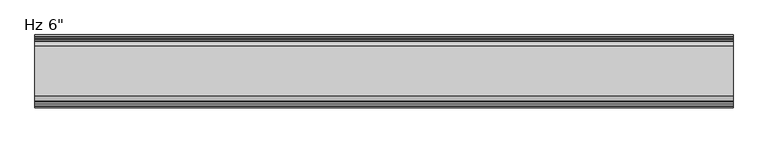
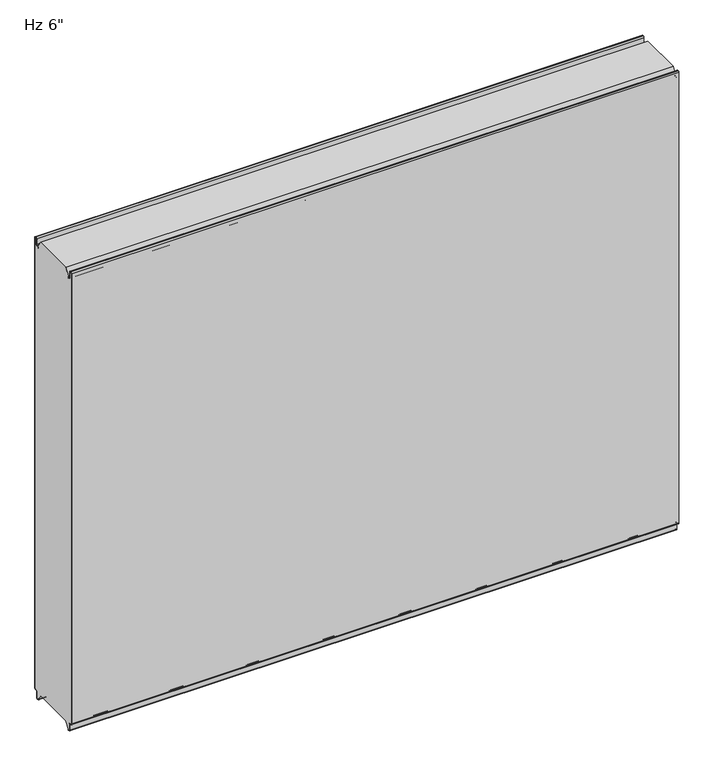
"""IFC4 building model written with IfcOpenShell, lengths in millimetres: plate geometry."""

from ifc_helpers import new_model, si_unit, frame, origin, place, context, project, spatial, polyline, circle_curve, source, transform, mapped, element, save
from ifc_brep_helpers import plane_surface, cylinder_surface, revolved_surface, advanced_brep


def plate_aa5ba04c(model_context):
    return source(origin(), model_context, "Body", "AdvancedBrep", [
        advanced_brep(
        [(-730.0, -149.4227194, 3.8499499), (-730.0, -151.3999935, 5.8272239), (-730.0, -151.4, 1150.8100652), (-730.0, -149.4227315, 1152.7873337), (-730.0, -148.3806329, 1152.7873337), (-730.0, -146.4033643, 1150.8100652), (-730.0, -146.4033643, 1136.6216802), (-730.0, -143.8154878, 1134.0338036), (-730.0, -139.4950697, 1134.0338036), (-730.0, -138.9060762, 1133.4253365), (-730.0, -138.9060762, 1131.0482432), (-730.0, -137.9066023, 1131.0482432), (-730.0, -137.9066023, 1136.4905123), (-730.0, -128.6490865, 1152.525), (-730.0, -23.7509179, 1152.525), (-730.0, -14.4933977, 1136.4905123), (-730.0, -14.4933977, 1131.0482432), (-730.0, -13.4939238, 1131.0482432), (-730.0, -13.4939238, 1133.4253365), (-730.0, -12.9049303, 1134.0338036), (-730.0, -8.5845122, 1134.0338036), (-730.0, -5.9966357, 1136.6216802), (-730.0, -5.9966357, 1150.8100652), (-730.0, -4.0193671, 1152.7873337), (-730.0, -2.9772685, 1152.7873337), (-730.0, -1.0, 1150.8100652), (-730.0, -1.0, 5.8272239), (-730.0, -2.9772806, 3.8499499), (-730.0, -5.2691705, 3.8499499), (-730.0, -9.2464377, -0.1273173), (-730.0, -9.2464377, -15.7237417), (-730.0, -9.8343146, -16.3116186), (-730.0, -12.9058635, -16.3116186), (-730.0, -13.4937402, -15.723742), (-730.0, -13.4937402, -13.3687064), (-730.0, -14.4937402, -13.3687064), (-730.0, -14.4937402, -15.6582851), (-730.0, -23.7509135, 0.0), (-730.0, -128.6490865, 0.0), (-730.0, -137.9062598, -15.6582851), (-730.0, -137.9062598, -13.3687064), (-730.0, -138.9062598, -13.3687064), (-730.0, -138.9062598, -15.723742), (-730.0, -139.4941365, -16.3116186), (-730.0, -142.5656854, -16.3116186), (-730.0, -143.1535623, -15.7237417), (-730.0, -143.1535623, -0.1273173), (-730.0, -147.1308295, 3.8499499), (730.0, -149.4227194, 3.8499499), (730.0, -147.1308295, 3.8499499), (730.0, -143.1535623, -0.1273173), (730.0, -143.1535623, -15.7237417), (730.0, -142.5656854, -16.3116186), (730.0, -139.4941365, -16.3116186), (730.0, -138.9062598, -15.723742), (730.0, -138.9062598, -13.3687064), (730.0, -137.9062598, -13.3687064), (730.0, -137.9062598, -15.6582851), (730.0, -128.6490865, 0.0), (730.0, -23.7509179, 0.0), (730.0, -14.4937402, -15.6582851), (730.0, -14.4937402, -13.3687064), (730.0, -13.4937402, -13.3687064), (730.0, -13.4937402, -15.723742), (730.0, -12.9058635, -16.3116186), (730.0, -9.8343146, -16.3116186), (730.0, -9.2464377, -15.7237417), (730.0, -9.2464377, -0.1273173), (730.0, -5.2691705, 3.8499499), (730.0, -2.9772806, 3.8499499), (730.0, -1.0000065, 5.8272239), (730.0, -1.0, 1150.8100652), (730.0, -2.9772685, 1152.7873337), (730.0, -4.0193671, 1152.7873337), (730.0, -5.9966357, 1150.8100652), (730.0, -5.9966357, 1136.6216802), (730.0, -8.5845122, 1134.0338036), (730.0, -12.9049303, 1134.0338036), (730.0, -13.4939238, 1133.4253365), (730.0, -13.4939238, 1131.0482432), (730.0, -14.4933977, 1131.0482432), (730.0, -14.4933977, 1136.4905123), (730.0, -23.7509135, 1152.525), (730.0, -128.6490865, 1152.525), (730.0, -137.9066023, 1136.4905123), (730.0, -137.9066023, 1131.0482432), (730.0, -138.9060762, 1131.0482432), (730.0, -138.9060762, 1133.4253365), (730.0, -139.4950697, 1134.0338036), (730.0, -143.8154878, 1134.0338036), (730.0, -146.4033643, 1136.6216802), (730.0, -146.4033643, 1150.8100652), (730.0, -148.3806329, 1152.7873337), (730.0, -149.4227315, 1152.7873337), (730.0, -151.4, 1150.8100652), (730.0, -151.4, 5.8272239)],
        [
            (0, 1, circle_curve(frame((-730.0, -149.4227194, 5.8272239), z_axis=(-1.0, 0.0, 0.0), x_axis=(0.0, 0.0, -1.0)), 1.977274)),
            (1, 2),
            (2, 3, circle_curve(frame((-730.0, -149.4227315, 1150.8100652), z_axis=(-1.0, 0.0, 0.0), x_axis=(0.0, 0.0, -1.0)), 1.9772685)),
            (3, 4),
            (4, 5, circle_curve(frame((-730.0, -148.3806329, 1150.8100652), z_axis=(-1.0, 0.0, 0.0), x_axis=(0.0, 0.0, -1.0)), 1.9772685)),
            (5, 6),
            (6, 7, circle_curve(frame((-730.0, -143.8154878, 1136.6216802), z_axis=(1.0, 0.0, 0.0), x_axis=(0.0, 0.0, -1.0)), 2.5878765)),
            (7, 8),
            (8, 9, circle_curve(frame((-730.0, -139.4950697, 1133.4444985), z_axis=(-1.0, 0.0, 0.0), x_axis=(0.0, 0.0, -1.0)), 0.5893051)),
            (9, 10),
            (10, 11),
            (11, 12),
            (12, 13),
            (13, 14),
            (14, 15),
            (15, 16),
            (16, 17),
            (17, 18),
            (18, 19, circle_curve(frame((-730.0, -12.9049303, 1133.4444985), z_axis=(-1.0, 0.0, 0.0), x_axis=(0.0, 1.0, 0.0)), 0.5893051)),
            (19, 20),
            (20, 21, circle_curve(frame((-730.0, -8.5845122, 1136.6216802), z_axis=(1.0, 0.0, 0.0), x_axis=(0.0, 1.0, 0.0)), 2.5878765)),
            (21, 22),
            (22, 23, circle_curve(frame((-730.0, -4.0193671, 1150.8100652), z_axis=(-1.0, 0.0, 0.0), x_axis=(0.0, 1.0, 0.0)), 1.9772685)),
            (23, 24),
            (24, 25, circle_curve(frame((-730.0, -2.9772685, 1150.8100652), z_axis=(-1.0, 0.0, 0.0), x_axis=(0.0, 1.0, 0.0)), 1.9772685)),
            (25, 26),
            (26, 27, circle_curve(frame((-730.0, -2.9772806, 5.8272239), z_axis=(-1.0, 0.0, 0.0), x_axis=(0.0, 1.0, 0.0)), 1.977274)),
            (27, 28),
            (28, 29, circle_curve(frame((-730.0, -5.2691705, -0.1273173), z_axis=(1.0, 0.0, 0.0), x_axis=(0.0, 1.0, 0.0)), 3.9772671)),
            (29, 30),
            (30, 31, circle_curve(frame((-730.0, -9.8343146, -15.7237417), z_axis=(-1.0, 0.0, 0.0), x_axis=(0.0, 1.0, 0.0)), 0.5878769)),
            (31, 32),
            (32, 33, circle_curve(frame((-730.0, -12.9058635, -15.723742), z_axis=(-1.0, 0.0, 0.0), x_axis=(0.0, 1.0, 0.0)), 0.5878766)),
            (33, 34),
            (34, 35),
            (35, 36),
            (36, 37),
            (37, 38),
            (38, 39),
            (39, 40),
            (40, 41),
            (41, 42),
            (42, 43, circle_curve(frame((-730.0, -139.4941365, -15.723742), z_axis=(-1.0, 0.0, 0.0), x_axis=(0.0, 0.0, -1.0)), 0.5878766)),
            (43, 44),
            (44, 45, circle_curve(frame((-730.0, -142.5656854, -15.7237417), z_axis=(-1.0, 0.0, 0.0), x_axis=(0.0, 0.0, -1.0)), 0.5878769)),
            (45, 46),
            (46, 47, circle_curve(frame((-730.0, -147.1308295, -0.1273173), z_axis=(1.0, 0.0, 0.0), x_axis=(0.0, 0.0, -1.0)), 3.9772671)),
            (47, 0),
            (48, 49),
            (49, 50, circle_curve(frame((730.0, -147.1308295, -0.1273173), z_axis=(-1.0, 0.0, 0.0), x_axis=(0.0, 0.0, -1.0)), 3.9772671)),
            (50, 51),
            (51, 52, circle_curve(frame((730.0, -142.5656854, -15.7237417), z_axis=(1.0, 0.0, 0.0), x_axis=(0.0, 0.0, -1.0)), 0.5878769)),
            (52, 53),
            (53, 54, circle_curve(frame((730.0, -139.4941365, -15.723742), z_axis=(1.0, 0.0, 0.0), x_axis=(0.0, 0.0, -1.0)), 0.5878766)),
            (54, 55),
            (55, 56),
            (56, 57),
            (57, 58),
            (58, 59),
            (59, 60),
            (60, 61),
            (61, 62),
            (62, 63),
            (63, 64, circle_curve(frame((730.0, -12.9058635, -15.723742), z_axis=(1.0, 0.0, 0.0), x_axis=(0.0, 1.0, 0.0)), 0.5878766)),
            (64, 65),
            (65, 66, circle_curve(frame((730.0, -9.8343146, -15.7237417), z_axis=(1.0, 0.0, 0.0), x_axis=(0.0, 1.0, 0.0)), 0.5878769)),
            (66, 67),
            (67, 68, circle_curve(frame((730.0, -5.2691705, -0.1273173), z_axis=(-1.0, 0.0, 0.0), x_axis=(0.0, 1.0, 0.0)), 3.9772671)),
            (68, 69),
            (69, 70, circle_curve(frame((730.0, -2.9772806, 5.8272239), z_axis=(1.0, 0.0, 0.0), x_axis=(0.0, 1.0, 0.0)), 1.977274)),
            (70, 71),
            (71, 72, circle_curve(frame((730.0, -2.9772685, 1150.8100652), z_axis=(1.0, 0.0, 0.0), x_axis=(0.0, 1.0, 0.0)), 1.9772685)),
            (72, 73),
            (73, 74, circle_curve(frame((730.0, -4.0193671, 1150.8100652), z_axis=(1.0, 0.0, 0.0), x_axis=(0.0, 1.0, 0.0)), 1.9772685)),
            (74, 75),
            (75, 76, circle_curve(frame((730.0, -8.5845122, 1136.6216802), z_axis=(-1.0, 0.0, 0.0), x_axis=(0.0, 1.0, 0.0)), 2.5878765)),
            (76, 77),
            (77, 78, circle_curve(frame((730.0, -12.9049303, 1133.4444985), z_axis=(1.0, 0.0, 0.0), x_axis=(0.0, 1.0, 0.0)), 0.5893051)),
            (78, 79),
            (79, 80),
            (80, 81),
            (81, 82),
            (82, 83),
            (83, 84),
            (84, 85),
            (85, 86),
            (86, 87),
            (87, 88, circle_curve(frame((730.0, -139.4950697, 1133.4444985), z_axis=(1.0, 0.0, 0.0), x_axis=(0.0, 0.0, -1.0)), 0.5893051)),
            (88, 89),
            (89, 90, circle_curve(frame((730.0, -143.8154878, 1136.6216802), z_axis=(-1.0, 0.0, 0.0), x_axis=(0.0, 0.0, -1.0)), 2.5878765)),
            (90, 91),
            (91, 92, circle_curve(frame((730.0, -148.3806329, 1150.8100652), z_axis=(1.0, 0.0, 0.0), x_axis=(0.0, 0.0, -1.0)), 1.9772685)),
            (92, 93),
            (93, 94, circle_curve(frame((730.0, -149.4227315, 1150.8100652), z_axis=(1.0, 0.0, 0.0), x_axis=(0.0, 0.0, -1.0)), 1.9772685)),
            (94, 95),
            (95, 48, circle_curve(frame((730.0, -149.4227194, 5.8272239), z_axis=(1.0, 0.0, 0.0), x_axis=(0.0, 0.0, -1.0)), 1.977274)),
            (13, 83),
            (82, 14),
            (58, 38),
            (37, 59),
            (47, 49),
            (48, 0),
            (46, 50),
            (45, 51),
            (44, 52),
            (43, 53),
            (42, 54),
            (41, 55),
            (40, 56),
            (39, 57),
            (12, 84),
            (11, 85),
            (10, 86),
            (9, 87),
            (8, 88),
            (7, 89),
            (6, 90),
            (5, 91),
            (4, 92),
            (3, 93),
            (2, 94),
            (1, 95),
            (26, 70),
            (69, 27),
            (25, 71),
            (24, 72),
            (23, 73),
            (22, 74),
            (21, 75),
            (20, 76),
            (19, 77),
            (18, 78),
            (17, 79),
            (16, 80),
            (15, 81),
            (36, 60),
            (35, 61),
            (34, 62),
            (33, 63),
            (32, 64),
            (31, 65),
            (30, 66),
            (29, 67),
            (28, 68),
        ],
        [
            plane_surface(frame((-730.0, -151.4, 576.2625), z_axis=(-1.0, 0.0, 0.0), x_axis=(0.0, -1.0, 0.0))),
            plane_surface(frame((730.0, -151.4, 576.2625), z_axis=(1.0, 0.0, 0.0), x_axis=(0.0, -1.0, 0.0))),
            plane_surface(frame((-730.0, -128.6490865, 1152.525), z_axis=(0.0, 0.0, 1.0), x_axis=(-1.0, 0.0, 0.0))),
            plane_surface(frame((-730.0, -128.6490865, 0.0), z_axis=(0.0, 0.0, -1.0), x_axis=(1.0, 0.0, 0.0))),
            plane_surface(frame((-730.0, -149.4227194, 3.8499499), z_axis=(0.0, 0.0, -1.0), x_axis=(1.0, 0.0, 0.0))),
            revolved_surface(polyline([(730.0, -147.1308295, -4.1045844), (-730.0, -147.1308295, -4.1045844)]), (-730.0, -147.1308295, -0.1273173), (1.0, 0.0, 0.0)),
            plane_surface(frame((-730.0, -143.1535623, -0.1273173), z_axis=(0.0, -1.0, 0.0), x_axis=(1.0, 0.0, 0.0))),
            cylinder_surface(frame((-730.0, -142.5656854, -15.7237417), z_axis=(-1.0, 0.0, 0.0), x_axis=(0.0, 0.0, -1.0)), 0.5878769),
            plane_surface(frame((-730.0, -142.5656854, -16.3116186), z_axis=(0.0, 0.0, -1.0), x_axis=(1.0, 0.0, 0.0))),
            cylinder_surface(frame((-730.0, -139.4941365, -15.723742), z_axis=(-1.0, 0.0, 0.0), x_axis=(0.0, 0.0, -1.0)), 0.5878766),
            plane_surface(frame((-730.0, -138.9062598, -15.723742), z_axis=(0.0, 1.0, 0.0), x_axis=(1.0, 0.0, 0.0))),
            plane_surface(frame((-730.0, -138.9062598, -13.3687064), z_axis=(0.0, 0.0, -1.0), x_axis=(1.0, 0.0, 0.0))),
            plane_surface(frame((-730.0, -137.9062598, -13.3687064), z_axis=(0.0, -1.0, 0.0), x_axis=(1.0, 0.0, 0.0))),
            plane_surface(frame((-730.0, -137.9062598, -15.6582851), z_axis=(0.0, 0.8608169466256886, -0.5089147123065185), x_axis=(1.0, 0.0, 0.0))),
            plane_surface(frame((-730.0, -128.6490865, 1152.525), z_axis=(0.0, -0.8660254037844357, 0.5000000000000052), x_axis=(1.0, 0.0, 0.0))),
            plane_surface(frame((-730.0, -137.9066023, 1136.4905123), z_axis=(0.0, -1.0, 0.0), x_axis=(1.0, 0.0, 0.0))),
            plane_surface(frame((-730.0, -137.9066023, 1131.0482432), z_axis=(0.0, 0.0, 1.0), x_axis=(1.0, 0.0, 0.0))),
            plane_surface(frame((-730.0, -138.9060762, 1131.0482432), z_axis=(0.0, 1.0, 0.0), x_axis=(1.0, 0.0, 0.0))),
            cylinder_surface(frame((-730.0, -139.4950697, 1133.4444985), z_axis=(-1.0, 0.0, 0.0), x_axis=(0.0, 0.0, -1.0)), 0.5893051),
            plane_surface(frame((-730.0, -139.4950697, 1134.0338036), z_axis=(0.0, 0.0, 1.0), x_axis=(1.0, 0.0, 0.0))),
            revolved_surface(polyline([(730.0, -143.8154878, 1134.0338037), (-730.0, -143.8154878, 1134.0338037)]), (-730.0, -143.8154878, 1136.6216802), (1.0, 0.0, 0.0)),
            plane_surface(frame((-730.0, -146.4033643, 1136.6216802), z_axis=(0.0, 1.0, 0.0), x_axis=(1.0, 0.0, 0.0))),
            cylinder_surface(frame((-730.0, -148.3806329, 1150.8100652), z_axis=(-1.0, 0.0, 0.0), x_axis=(0.0, 0.0, -1.0)), 1.9772685),
            plane_surface(frame((-730.0, -148.3806329, 1152.7873337), z_axis=(0.0, 0.0, 1.0), x_axis=(1.0, 0.0, 0.0))),
            cylinder_surface(frame((-730.0, -149.4227315, 1150.8100652), z_axis=(-1.0, 0.0, 0.0), x_axis=(0.0, 0.0, -1.0)), 1.9772685),
            plane_surface(frame((-730.0, -151.4, 1150.8100652), z_axis=(0.0, -1.0, 0.0), x_axis=(1.0, 0.0, 0.0))),
            cylinder_surface(frame((-730.0, -149.4227194, 5.8272239), z_axis=(-1.0, 0.0, 0.0), x_axis=(0.0, 0.0, -1.0)), 1.977274),
            cylinder_surface(frame((-730.0, -2.9772806, 5.8272239), z_axis=(-1.0, 0.0, 0.0), x_axis=(0.0, 1.0, 0.0)), 1.977274),
            plane_surface(frame((-730.0, -1.0, 5.8272239), z_axis=(0.0, 1.0, 0.0), x_axis=(1.0, 0.0, 0.0))),
            cylinder_surface(frame((-730.0, -2.9772685, 1150.8100652), z_axis=(-1.0, 0.0, 0.0), x_axis=(0.0, 1.0, 0.0)), 1.9772685),
            plane_surface(frame((-730.0, -2.9772685, 1152.7873337), z_axis=(0.0, 0.0, 1.0), x_axis=(1.0, 0.0, 0.0))),
            cylinder_surface(frame((-730.0, -4.0193671, 1150.8100652), z_axis=(-1.0, 0.0, 0.0), x_axis=(0.0, 1.0, 0.0)), 1.9772685),
            plane_surface(frame((-730.0, -5.9966357, 1150.8100652), z_axis=(0.0, -1.0, 0.0), x_axis=(1.0, 0.0, 0.0))),
            revolved_surface(polyline([(730.0, -5.996635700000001, 1136.6216802), (-730.0, -5.996635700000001, 1136.6216802)]), (-730.0, -8.5845122, 1136.6216802), (1.0, 0.0, 0.0)),
            plane_surface(frame((-730.0, -8.5845122, 1134.0338036), z_axis=(0.0, 0.0, 1.0), x_axis=(1.0, 0.0, 0.0))),
            cylinder_surface(frame((-730.0, -12.9049303, 1133.4444985), z_axis=(-1.0, 0.0, 0.0), x_axis=(0.0, 1.0, 0.0)), 0.5893051),
            plane_surface(frame((-730.0, -13.4939238, 1133.4253365), z_axis=(0.0, -1.0, 0.0), x_axis=(1.0, 0.0, 0.0))),
            plane_surface(frame((-730.0, -13.4939238, 1131.0482432), z_axis=(0.0, 0.0, 1.0), x_axis=(1.0, 0.0, 0.0))),
            plane_surface(frame((-730.0, -14.4933977, 1131.0482432), z_axis=(0.0, 1.0, 0.0), x_axis=(1.0, 0.0, 0.0))),
            plane_surface(frame((-730.0, -14.4933977, 1136.4905123), z_axis=(0.0, 0.8660254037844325, 0.5000000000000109), x_axis=(1.0, 0.0, 0.0))),
            plane_surface(frame((-730.0, -23.7509135, 0.0), z_axis=(0.0, -0.8608169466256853, -0.5089147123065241), x_axis=(1.0, 0.0, 0.0))),
            plane_surface(frame((-730.0, -14.4937402, -15.6582851), z_axis=(0.0, 1.0, 0.0), x_axis=(1.0, 0.0, 0.0))),
            plane_surface(frame((-730.0, -14.4937402, -13.3687064), z_axis=(0.0, 0.0, -1.0), x_axis=(1.0, 0.0, 0.0))),
            plane_surface(frame((-730.0, -13.4937402, -13.3687064), z_axis=(0.0, -1.0, 0.0), x_axis=(1.0, 0.0, 0.0))),
            cylinder_surface(frame((-730.0, -12.9058635, -15.723742), z_axis=(-1.0, 0.0, 0.0), x_axis=(0.0, 1.0, 0.0)), 0.5878766),
            plane_surface(frame((-730.0, -12.9058635, -16.3116186), z_axis=(0.0, 0.0, -1.0), x_axis=(1.0, 0.0, 0.0))),
            cylinder_surface(frame((-730.0, -9.8343146, -15.7237417), z_axis=(-1.0, 0.0, 0.0), x_axis=(0.0, 1.0, 0.0)), 0.5878769),
            plane_surface(frame((-730.0, -9.2464377, -15.7237417), z_axis=(0.0, 1.0, 0.0), x_axis=(1.0, 0.0, 0.0))),
            revolved_surface(polyline([(730.0, -1.2919034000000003, -0.1273173), (-730.0, -1.2919034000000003, -0.1273173)]), (-730.0, -5.2691705, -0.1273173), (1.0, 0.0, 0.0)),
            plane_surface(frame((-730.0, -5.2691705, 3.8499499), z_axis=(0.0, 0.0, -1.0), x_axis=(1.0, 0.0, 0.0))),
        ],
        [
            (0, [[1, 2, 3, 4, 5, 6, 7, 8, 9, 10, 11, 12, 13, 14, 15, 16, 17, 18, 19, 20, 21, 22, 23, 24, 25, 26, 27, 28, 29, 30, 31, 32, 33, 34, 35, 36, 37, 38, 39, 40, 41, 42, 43, 44, 45, 46, 47, 48]]),
            (1, [[49, 50, 51, 52, 53, 54, 55, 56, 57, 58, 59, 60, 61, 62, 63, 64, 65, 66, 67, 68, 69, 70, 71, 72, 73, 74, 75, 76, 77, 78, 79, 80, 81, 82, 83, 84, 85, 86, 87, 88, 89, 90, 91, 92, 93, 94, 95, 96]]),
            (2, [[97, -83, 98, -14]]),
            (3, [[99, -38, 100, -59]]),
            (4, [[101, -49, 102, -48]]),
            (5, [[103, -50, -101, -47]]),
            (6, [[104, -51, -103, -46]]),
            (7, [[105, -52, -104, -45]]),
            (8, [[106, -53, -105, -44]]),
            (9, [[107, -54, -106, -43]]),
            (10, [[108, -55, -107, -42]]),
            (11, [[109, -56, -108, -41]]),
            (12, [[110, -57, -109, -40]]),
            (13, [[-99, -58, -110, -39]]),
            (14, [[111, -84, -97, -13]]),
            (15, [[112, -85, -111, -12]]),
            (16, [[113, -86, -112, -11]]),
            (17, [[114, -87, -113, -10]]),
            (18, [[115, -88, -114, -9]]),
            (19, [[116, -89, -115, -8]]),
            (20, [[117, -90, -116, -7]]),
            (21, [[118, -91, -117, -6]]),
            (22, [[119, -92, -118, -5]]),
            (23, [[120, -93, -119, -4]]),
            (24, [[121, -94, -120, -3]]),
            (25, [[122, -95, -121, -2]]),
            (26, [[-102, -96, -122, -1]]),
            (27, [[123, -70, 124, -27]]),
            (28, [[125, -71, -123, -26]]),
            (29, [[126, -72, -125, -25]]),
            (30, [[127, -73, -126, -24]]),
            (31, [[128, -74, -127, -23]]),
            (32, [[129, -75, -128, -22]]),
            (33, [[130, -76, -129, -21]]),
            (34, [[131, -77, -130, -20]]),
            (35, [[132, -78, -131, -19]]),
            (36, [[133, -79, -132, -18]]),
            (37, [[134, -80, -133, -17]]),
            (38, [[135, -81, -134, -16]]),
            (39, [[-98, -82, -135, -15]]),
            (40, [[136, -60, -100, -37]]),
            (41, [[137, -61, -136, -36]]),
            (42, [[138, -62, -137, -35]]),
            (43, [[139, -63, -138, -34]]),
            (44, [[140, -64, -139, -33]]),
            (45, [[141, -65, -140, -32]]),
            (46, [[142, -66, -141, -31]]),
            (47, [[143, -67, -142, -30]]),
            (48, [[144, -68, -143, -29]]),
            (49, [[-124, -69, -144, -28]]),
        ],
    ),
        advanced_brep(
        [(-730.0, -2.9776189, 3.8501063), (-730.0, -1.0007088, 5.8270163), (-730.0, -1.0007088, 1150.812837), (-730.0, -2.97659, 1152.7887182), (-730.0, -4.019022, 1152.7887182), (-730.0, -5.9969834, 1150.8107568), (-730.0, -5.9969834, 1136.6215971), (-730.0, -8.5846834, 1134.0338971), (-730.0, -12.9049158, 1134.0338971), (-730.0, -13.4939528, 1133.4253599), (-730.0, -13.4939528, 1131.0482432), (-730.0, -14.4933977, 1131.0482432), (-730.0, -14.4933977, 1133.3929042), (-730.0, -12.9049303, 1135.0338036), (-730.0, -8.5845122, 1135.0338036), (-730.0, -6.9966356, 1136.6216801), (-730.0, -6.9966356, 1150.8100652), (-730.0, -4.0193671, 1153.7873337), (-730.0, -2.9772685, 1153.7873337), (-730.0, 0.0, 1150.8100652), (-730.0, 0.0, 5.8272211), (-730.0, -2.977286, 2.8499526), (-730.0, -5.2691698, 2.8499526), (-730.0, -8.2464384, -0.1273159), (-730.0, -8.2464384, -15.7237419), (-730.0, -9.8343149, -17.3116185), (-730.0, -12.9058636, -17.3116185), (-730.0, -14.4937401, -15.7237419), (-730.0, -14.4937401, -13.3687064), (-730.0, -13.4937365, -13.3687064), (-730.0, -13.4937365, -15.7237374), (-730.0, -12.9058654, -16.3116086), (-730.0, -9.834334, -16.3116086), (-730.0, -9.2464768, -15.7237514), (-730.0, -9.2464768, -0.1272391), (-730.0, -5.2691315, 3.8501063), (730.0, -2.9776189, 3.8501063), (730.0, -5.2691315, 3.8501063), (730.0, -9.2464768, -0.1272391), (730.0, -9.2464768, -15.7237514), (730.0, -9.834334, -16.3116086), (730.0, -12.9058654, -16.3116086), (730.0, -13.4937365, -15.7237374), (730.0, -13.4937365, -13.3687064), (730.0, -14.4937401, -13.3687064), (730.0, -14.4937401, -15.7237419), (730.0, -12.9058636, -17.3116185), (730.0, -9.8343149, -17.3116185), (730.0, -8.2464384, -15.7237419), (730.0, -8.2464384, -0.1273159), (730.0, -5.2691698, 2.8499526), (730.0, -2.977286, 2.8499526), (730.0, -1.75e-05, 5.8272211), (730.0, 0.0, 1150.8100652), (730.0, -2.9772685, 1153.7873337), (730.0, -4.0193671, 1153.7873337), (730.0, -6.9966356, 1150.8100652), (730.0, -6.9966356, 1136.6216801), (730.0, -8.5845122, 1135.0338036), (730.0, -12.9049303, 1135.0338036), (730.0, -14.4933977, 1133.3929042), (730.0, -14.4933977, 1131.0482432), (730.0, -13.4939528, 1131.0482432), (730.0, -13.4939528, 1133.4253599), (730.0, -12.9049158, 1134.0338971), (730.0, -8.5846834, 1134.0338971), (730.0, -5.9969834, 1136.6215971), (730.0, -5.9969834, 1150.8107568), (730.0, -4.019022, 1152.7887182), (730.0, -2.97659, 1152.7887182), (730.0, -1.0007088, 1150.812837), (730.0, -1.0007088, 5.8270163)],
        [
            (0, 1, circle_curve(frame((-730.0, -2.9776189, 5.8270163), z_axis=(1.0, 0.0, 0.0), x_axis=(0.0, 1.0, 0.0)), 1.9769101)),
            (1, 2),
            (2, 3, circle_curve(frame((-730.0, -2.97659, 1150.812837), z_axis=(1.0, 0.0, 0.0), x_axis=(0.0, 1.0, 0.0)), 1.9758812)),
            (3, 4),
            (4, 5, circle_curve(frame((-730.0, -4.019022, 1150.8107568), z_axis=(1.0, 0.0, 0.0), x_axis=(0.0, 1.0, 0.0)), 1.9779614)),
            (5, 6),
            (6, 7, circle_curve(frame((-730.0, -8.5846834, 1136.6215971), z_axis=(-1.0, 0.0, 0.0), x_axis=(0.0, 1.0, 0.0)), 2.5877)),
            (7, 8),
            (8, 9, circle_curve(frame((-730.0, -12.9049158, 1133.4445477), z_axis=(1.0, 0.0, 0.0), x_axis=(0.0, 1.0, 0.0)), 0.5893495)),
            (9, 10),
            (10, 11),
            (11, 12),
            (12, 13, circle_curve(frame((-730.0, -12.9049303, 1133.4444985), z_axis=(-1.0, 0.0, 0.0), x_axis=(0.0, 1.0, 0.0)), 1.5893051)),
            (13, 14),
            (14, 15, circle_curve(frame((-730.0, -8.5845122, 1136.6216801), z_axis=(1.0, 0.0, 0.0), x_axis=(0.0, 1.0, 0.0)), 1.5878765)),
            (15, 16),
            (16, 17, circle_curve(frame((-730.0, -4.0193671, 1150.8100652), z_axis=(-1.0, 0.0, 0.0), x_axis=(0.0, 1.0, 0.0)), 2.9772685)),
            (17, 18),
            (18, 19, circle_curve(frame((-730.0, -2.9772685, 1150.8100652), z_axis=(-1.0, 0.0, 0.0), x_axis=(0.0, 1.0, 0.0)), 2.9772685)),
            (19, 20),
            (20, 21, circle_curve(frame((-730.0, -2.977286, 5.8272211), z_axis=(-1.0, 0.0, 0.0), x_axis=(0.0, 1.0, 0.0)), 2.9772685)),
            (21, 22),
            (22, 23, circle_curve(frame((-730.0, -5.2691698, -0.1273159), z_axis=(1.0, 0.0, 0.0), x_axis=(0.0, 1.0, 0.0)), 2.9772685)),
            (23, 24),
            (24, 25, circle_curve(frame((-730.0, -9.8343149, -15.7237419), z_axis=(-1.0, 0.0, 0.0), x_axis=(0.0, 1.0, 0.0)), 1.5878765)),
            (25, 26),
            (26, 27, circle_curve(frame((-730.0, -12.9058636, -15.7237419), z_axis=(-1.0, 0.0, 0.0), x_axis=(0.0, 1.0, 0.0)), 1.5878765)),
            (27, 28),
            (28, 29),
            (29, 30),
            (30, 31, circle_curve(frame((-730.0, -12.9058654, -15.7237374), z_axis=(1.0, 0.0, 0.0), x_axis=(0.0, 1.0, 0.0)), 0.5878711)),
            (31, 32),
            (32, 33, circle_curve(frame((-730.0, -9.834334, -15.7237514), z_axis=(1.0, 0.0, 0.0), x_axis=(0.0, 1.0, 0.0)), 0.5878572)),
            (33, 34),
            (34, 35, circle_curve(frame((-730.0, -5.2691315, -0.1272391), z_axis=(-1.0, 0.0, 0.0), x_axis=(0.0, 1.0, 0.0)), 3.9773454)),
            (35, 0),
            (36, 37),
            (37, 38, circle_curve(frame((730.0, -5.2691315, -0.1272391), z_axis=(1.0, 0.0, 0.0), x_axis=(0.0, 1.0, 0.0)), 3.9773454)),
            (38, 39),
            (39, 40, circle_curve(frame((730.0, -9.834334, -15.7237514), z_axis=(-1.0, 0.0, 0.0), x_axis=(0.0, 1.0, 0.0)), 0.5878572)),
            (40, 41),
            (41, 42, circle_curve(frame((730.0, -12.9058654, -15.7237374), z_axis=(-1.0, 0.0, 0.0), x_axis=(0.0, 1.0, 0.0)), 0.5878711)),
            (42, 43),
            (43, 44),
            (44, 45),
            (45, 46, circle_curve(frame((730.0, -12.9058636, -15.7237419), z_axis=(1.0, 0.0, 0.0), x_axis=(0.0, 1.0, 0.0)), 1.5878765)),
            (46, 47),
            (47, 48, circle_curve(frame((730.0, -9.8343149, -15.7237419), z_axis=(1.0, 0.0, 0.0), x_axis=(0.0, 1.0, 0.0)), 1.5878765)),
            (48, 49),
            (49, 50, circle_curve(frame((730.0, -5.2691698, -0.1273159), z_axis=(-1.0, 0.0, 0.0), x_axis=(0.0, 1.0, 0.0)), 2.9772685)),
            (50, 51),
            (51, 52, circle_curve(frame((730.0, -2.977286, 5.8272211), z_axis=(1.0, 0.0, 0.0), x_axis=(0.0, 1.0, 0.0)), 2.9772685)),
            (52, 53),
            (53, 54, circle_curve(frame((730.0, -2.9772685, 1150.8100652), z_axis=(1.0, 0.0, 0.0), x_axis=(0.0, 1.0, 0.0)), 2.9772685)),
            (54, 55),
            (55, 56, circle_curve(frame((730.0, -4.0193671, 1150.8100652), z_axis=(1.0, 0.0, 0.0), x_axis=(0.0, 1.0, 0.0)), 2.9772685)),
            (56, 57),
            (57, 58, circle_curve(frame((730.0, -8.5845122, 1136.6216801), z_axis=(-1.0, 0.0, 0.0), x_axis=(0.0, 1.0, 0.0)), 1.5878765)),
            (58, 59),
            (59, 60, circle_curve(frame((730.0, -12.9049303, 1133.4444985), z_axis=(1.0, 0.0, 0.0), x_axis=(0.0, 1.0, 0.0)), 1.5893051)),
            (60, 61),
            (61, 62),
            (62, 63),
            (63, 64, circle_curve(frame((730.0, -12.9049158, 1133.4445477), z_axis=(-1.0, 0.0, 0.0), x_axis=(0.0, 1.0, 0.0)), 0.5893495)),
            (64, 65),
            (65, 66, circle_curve(frame((730.0, -8.5846834, 1136.6215971), z_axis=(1.0, 0.0, 0.0), x_axis=(0.0, 1.0, 0.0)), 2.5877)),
            (66, 67),
            (67, 68, circle_curve(frame((730.0, -4.019022, 1150.8107568), z_axis=(-1.0, 0.0, 0.0), x_axis=(0.0, 1.0, 0.0)), 1.9779614)),
            (68, 69),
            (69, 70, circle_curve(frame((730.0, -2.97659, 1150.812837), z_axis=(-1.0, 0.0, 0.0), x_axis=(0.0, 1.0, 0.0)), 1.9758812)),
            (70, 71),
            (71, 36, circle_curve(frame((730.0, -2.9776189, 5.8270163), z_axis=(-1.0, 0.0, 0.0), x_axis=(0.0, 1.0, 0.0)), 1.9769101)),
            (35, 37),
            (36, 0),
            (34, 38),
            (33, 39),
            (32, 40),
            (31, 41),
            (30, 42),
            (29, 43),
            (28, 44),
            (27, 45),
            (26, 46),
            (25, 47),
            (24, 48),
            (23, 49),
            (22, 50),
            (21, 51),
            (20, 52),
            (19, 53),
            (18, 54),
            (17, 55),
            (16, 56),
            (15, 57),
            (14, 58),
            (13, 59),
            (12, 60),
            (11, 61),
            (10, 62),
            (9, 63),
            (8, 64),
            (7, 65),
            (6, 66),
            (5, 67),
            (4, 68),
            (3, 69),
            (2, 70),
            (1, 71),
        ],
        [
            plane_surface(frame((-730.0, 0.0, 576.2625), z_axis=(-1.0, 0.0, 0.0), x_axis=(0.0, 1.0, 0.0))),
            plane_surface(frame((730.0, 0.0, 576.2625), z_axis=(1.0, 0.0, 0.0), x_axis=(0.0, 1.0, 0.0))),
            plane_surface(frame((-730.0, -2.9776189, 3.8501063), z_axis=(0.0, 0.0, 1.0), x_axis=(1.0, 0.0, 0.0))),
            cylinder_surface(frame((-730.0, -5.2691315, -0.1272391), z_axis=(-1.0, 0.0, 0.0), x_axis=(0.0, 1.0, 0.0)), 3.9773454),
            plane_surface(frame((-730.0, -9.2464768, -0.1272391), z_axis=(0.0, -1.0, 0.0), x_axis=(1.0, 0.0, 0.0))),
            revolved_surface(polyline([(730.0, -9.2464768, -15.7237514), (-730.0, -9.2464768, -15.7237514)]), (-730.0, -9.834334, -15.7237514), (1.0, 0.0, 0.0)),
            plane_surface(frame((-730.0, -9.834334, -16.3116086), z_axis=(0.0, 0.0, 1.0), x_axis=(1.0, 0.0, 0.0))),
            revolved_surface(polyline([(730.0, -12.3179943, -15.7237374), (-730.0, -12.3179943, -15.7237374)]), (-730.0, -12.9058654, -15.7237374), (1.0, 0.0, 0.0)),
            plane_surface(frame((-730.0, -13.4937365, -15.7237374), z_axis=(0.0, 1.0, 0.0), x_axis=(1.0, 0.0, 0.0))),
            plane_surface(frame((-730.0, -13.4937365, -13.3687064), z_axis=(0.0, 0.0, 1.0), x_axis=(1.0, 0.0, 0.0))),
            plane_surface(frame((-730.0, -14.4937401, -13.3687064), z_axis=(0.0, -1.0, 0.0), x_axis=(1.0, 0.0, 0.0))),
            cylinder_surface(frame((-730.0, -12.9058636, -15.7237419), z_axis=(-1.0, 0.0, 0.0), x_axis=(0.0, 1.0, 0.0)), 1.5878765),
            plane_surface(frame((-730.0, -12.9058636, -17.3116185), z_axis=(0.0, 0.0, -1.0), x_axis=(1.0, 0.0, 0.0))),
            cylinder_surface(frame((-730.0, -9.8343149, -15.7237419), z_axis=(-1.0, 0.0, 0.0), x_axis=(0.0, 1.0, 0.0)), 1.5878765),
            plane_surface(frame((-730.0, -8.2464384, -15.7237419), z_axis=(0.0, 1.0, 0.0), x_axis=(1.0, 0.0, 0.0))),
            revolved_surface(polyline([(730.0, -2.2919013, -0.1273159), (-730.0, -2.2919013, -0.1273159)]), (-730.0, -5.2691698, -0.1273159), (1.0, 0.0, 0.0)),
            plane_surface(frame((-730.0, -5.2691698, 2.8499526), z_axis=(0.0, 0.0, -1.0), x_axis=(1.0, 0.0, 0.0))),
            cylinder_surface(frame((-730.0, -2.977286, 5.8272211), z_axis=(-1.0, 0.0, 0.0), x_axis=(0.0, 1.0, 0.0)), 2.9772685),
            plane_surface(frame((-730.0, 0.0, 5.8272211), z_axis=(0.0, 1.0, 0.0), x_axis=(1.0, 0.0, 0.0))),
            cylinder_surface(frame((-730.0, -2.9772685, 1150.8100652), z_axis=(-1.0, 0.0, 0.0), x_axis=(0.0, 1.0, 0.0)), 2.9772685),
            plane_surface(frame((-730.0, -2.9772685, 1153.7873337), z_axis=(0.0, 0.0, 1.0), x_axis=(1.0, 0.0, 0.0))),
            cylinder_surface(frame((-730.0, -4.0193671, 1150.8100652), z_axis=(-1.0, 0.0, 0.0), x_axis=(0.0, 1.0, 0.0)), 2.9772685),
            plane_surface(frame((-730.0, -6.9966356, 1150.8100652), z_axis=(0.0, -1.0, 0.0), x_axis=(1.0, 0.0, 0.0))),
            revolved_surface(polyline([(730.0, -6.996635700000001, 1136.6216801), (-730.0, -6.996635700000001, 1136.6216801)]), (-730.0, -8.5845122, 1136.6216801), (1.0, 0.0, 0.0)),
            plane_surface(frame((-730.0, -8.5845122, 1135.0338036), z_axis=(0.0, 0.0, 1.0), x_axis=(1.0, 0.0, 0.0))),
            cylinder_surface(frame((-730.0, -12.9049303, 1133.4444985), z_axis=(-1.0, 0.0, 0.0), x_axis=(0.0, 1.0, 0.0)), 1.5893051),
            plane_surface(frame((-730.0, -14.4933977, 1133.3929042), z_axis=(0.0, -1.0, 0.0), x_axis=(1.0, 0.0, 0.0))),
            plane_surface(frame((-730.0, -14.4933977, 1131.0482432), z_axis=(0.0, 0.0, -1.0), x_axis=(1.0, 0.0, 0.0))),
            plane_surface(frame((-730.0, -13.4939528, 1131.0482432), z_axis=(0.0, 1.0, 0.0), x_axis=(1.0, 0.0, 0.0))),
            revolved_surface(polyline([(730.0, -12.3155663, 1133.4445477), (-730.0, -12.3155663, 1133.4445477)]), (-730.0, -12.9049158, 1133.4445477), (1.0, 0.0, 0.0)),
            plane_surface(frame((-730.0, -12.9049158, 1134.0338971), z_axis=(0.0, 0.0, -1.0), x_axis=(1.0, 0.0, 0.0))),
            cylinder_surface(frame((-730.0, -8.5846834, 1136.6215971), z_axis=(-1.0, 0.0, 0.0), x_axis=(0.0, 1.0, 0.0)), 2.5877),
            plane_surface(frame((-730.0, -5.9969834, 1136.6215971), z_axis=(0.0, 1.0, 0.0), x_axis=(1.0, 0.0, 0.0))),
            revolved_surface(polyline([(730.0, -2.0410606, 1150.8107568), (-730.0, -2.0410606, 1150.8107568)]), (-730.0, -4.019022, 1150.8107568), (1.0, 0.0, 0.0)),
            plane_surface(frame((-730.0, -4.019022, 1152.7887182), z_axis=(0.0, 0.0, -1.0), x_axis=(1.0, 0.0, 0.0))),
            revolved_surface(polyline([(730.0, -1.0007088, 1150.812837), (-730.0, -1.0007088, 1150.812837)]), (-730.0, -2.97659, 1150.812837), (1.0, 0.0, 0.0)),
            plane_surface(frame((-730.0, -1.0007088, 1150.812837), z_axis=(0.0, -1.0, 0.0), x_axis=(1.0, 0.0, 0.0))),
            revolved_surface(polyline([(730.0, -1.0007088, 5.8270163), (-730.0, -1.0007088, 5.8270163)]), (-730.0, -2.9776189, 5.8270163), (1.0, 0.0, 0.0)),
        ],
        [
            (0, [[1, 2, 3, 4, 5, 6, 7, 8, 9, 10, 11, 12, 13, 14, 15, 16, 17, 18, 19, 20, 21, 22, 23, 24, 25, 26, 27, 28, 29, 30, 31, 32, 33, 34, 35, 36]]),
            (1, [[37, 38, 39, 40, 41, 42, 43, 44, 45, 46, 47, 48, 49, 50, 51, 52, 53, 54, 55, 56, 57, 58, 59, 60, 61, 62, 63, 64, 65, 66, 67, 68, 69, 70, 71, 72]]),
            (2, [[73, -37, 74, -36]]),
            (3, [[75, -38, -73, -35]]),
            (4, [[76, -39, -75, -34]]),
            (5, [[77, -40, -76, -33]]),
            (6, [[78, -41, -77, -32]]),
            (7, [[79, -42, -78, -31]]),
            (8, [[80, -43, -79, -30]]),
            (9, [[81, -44, -80, -29]]),
            (10, [[82, -45, -81, -28]]),
            (11, [[83, -46, -82, -27]]),
            (12, [[84, -47, -83, -26]]),
            (13, [[85, -48, -84, -25]]),
            (14, [[86, -49, -85, -24]]),
            (15, [[87, -50, -86, -23]]),
            (16, [[88, -51, -87, -22]]),
            (17, [[89, -52, -88, -21]]),
            (18, [[90, -53, -89, -20]]),
            (19, [[91, -54, -90, -19]]),
            (20, [[92, -55, -91, -18]]),
            (21, [[93, -56, -92, -17]]),
            (22, [[94, -57, -93, -16]]),
            (23, [[95, -58, -94, -15]]),
            (24, [[96, -59, -95, -14]]),
            (25, [[97, -60, -96, -13]]),
            (26, [[98, -61, -97, -12]]),
            (27, [[99, -62, -98, -11]]),
            (28, [[100, -63, -99, -10]]),
            (29, [[101, -64, -100, -9]]),
            (30, [[102, -65, -101, -8]]),
            (31, [[103, -66, -102, -7]]),
            (32, [[104, -67, -103, -6]]),
            (33, [[105, -68, -104, -5]]),
            (34, [[106, -69, -105, -4]]),
            (35, [[107, -70, -106, -3]]),
            (36, [[108, -71, -107, -2]]),
            (37, [[-74, -72, -108, -1]]),
        ],
    ),
        advanced_brep(
        [(-730.0, -149.4223811, 3.8501063), (-730.0, -147.1308685, 3.8501063), (-730.0, -143.1535232, -0.1272391), (-730.0, -143.1535232, -15.7237514), (-730.0, -142.565666, -16.3116086), (-730.0, -139.4941346, -16.3116086), (-730.0, -138.9062635, -15.7237374), (-730.0, -138.9062635, -13.3687064), (-730.0, -137.9062599, -13.3687064), (-730.0, -137.9062599, -15.7237419), (-730.0, -139.4941364, -17.3116185), (-730.0, -142.5656851, -17.3116185), (-730.0, -144.1535616, -15.7237419), (-730.0, -144.1535616, -0.1273159), (-730.0, -147.1308302, 2.8499526), (-730.0, -149.422714, 2.8499526), (-730.0, -152.3999825, 5.8272211), (-730.0, -152.4, 1150.8100652), (-730.0, -149.4227315, 1153.7873337), (-730.0, -148.3806329, 1153.7873337), (-730.0, -145.4033644, 1150.8100652), (-730.0, -145.4033644, 1136.6216801), (-730.0, -143.8154878, 1135.0338036), (-730.0, -139.4950697, 1135.0338036), (-730.0, -137.9066023, 1133.3929042), (-730.0, -137.9066023, 1131.0482432), (-730.0, -138.9060472, 1131.0482432), (-730.0, -138.9060472, 1133.4253599), (-730.0, -139.4950842, 1134.0338971), (-730.0, -143.8153166, 1134.0338971), (-730.0, -146.4030166, 1136.6215971), (-730.0, -146.4030166, 1150.8107568), (-730.0, -148.380978, 1152.7887182), (-730.0, -149.42341, 1152.7887182), (-730.0, -151.3992912, 1150.812837), (-730.0, -151.3992912, 5.8270163), (730.0, -149.4223811, 3.8501063), (730.0, -151.3992912, 5.8270163), (730.0, -151.3992912, 1150.812837), (730.0, -149.42341, 1152.7887182), (730.0, -148.380978, 1152.7887182), (730.0, -146.4030166, 1150.8107568), (730.0, -146.4030166, 1136.6215971), (730.0, -143.8153166, 1134.0338971), (730.0, -139.4950842, 1134.0338971), (730.0, -138.9060472, 1133.4253599), (730.0, -138.9060472, 1131.0482432), (730.0, -137.9066023, 1131.0482432), (730.0, -137.9066023, 1133.3929042), (730.0, -139.4950697, 1135.0338036), (730.0, -143.8154878, 1135.0338036), (730.0, -145.4033644, 1136.6216801), (730.0, -145.4033644, 1150.8100652), (730.0, -148.3806329, 1153.7873337), (730.0, -149.4227315, 1153.7873337), (730.0, -152.4, 1150.8100652), (730.0, -152.4, 5.8272211), (730.0, -149.422714, 2.8499526), (730.0, -147.1308302, 2.8499526), (730.0, -144.1535616, -0.1273159), (730.0, -144.1535616, -15.7237419), (730.0, -142.5656851, -17.3116185), (730.0, -139.4941364, -17.3116185), (730.0, -137.9062599, -15.7237419), (730.0, -137.9062599, -13.3687064), (730.0, -138.9062635, -13.3687064), (730.0, -138.9062635, -15.7237374), (730.0, -139.4941346, -16.3116086), (730.0, -142.565666, -16.3116086), (730.0, -143.1535232, -15.7237514), (730.0, -143.1535232, -0.1272391), (730.0, -147.1308685, 3.8501063)],
        [
            (0, 1),
            (1, 2, circle_curve(frame((-730.0, -147.1308685, -0.1272391), z_axis=(-1.0, 0.0, 0.0), x_axis=(0.0, 0.0, -1.0)), 3.9773454)),
            (2, 3),
            (3, 4, circle_curve(frame((-730.0, -142.565666, -15.7237514), z_axis=(1.0, 0.0, 0.0), x_axis=(0.0, 0.0, -1.0)), 0.5878572)),
            (4, 5),
            (5, 6, circle_curve(frame((-730.0, -139.4941346, -15.7237374), z_axis=(1.0, 0.0, 0.0), x_axis=(0.0, 0.0, -1.0)), 0.5878711)),
            (6, 7),
            (7, 8),
            (8, 9),
            (9, 10, circle_curve(frame((-730.0, -139.4941364, -15.7237419), z_axis=(-1.0, 0.0, 0.0), x_axis=(0.0, 0.0, -1.0)), 1.5878765)),
            (10, 11),
            (11, 12, circle_curve(frame((-730.0, -142.5656851, -15.7237419), z_axis=(-1.0, 0.0, 0.0), x_axis=(0.0, 0.0, -1.0)), 1.5878765)),
            (12, 13),
            (13, 14, circle_curve(frame((-730.0, -147.1308302, -0.1273159), z_axis=(1.0, 0.0, 0.0), x_axis=(0.0, 0.0, -1.0)), 2.9772685)),
            (14, 15),
            (15, 16, circle_curve(frame((-730.0, -149.422714, 5.8272211), z_axis=(-1.0, 0.0, 0.0), x_axis=(0.0, 0.0, -1.0)), 2.9772685)),
            (16, 17),
            (17, 18, circle_curve(frame((-730.0, -149.4227315, 1150.8100652), z_axis=(-1.0, 0.0, 0.0), x_axis=(0.0, 0.0, -1.0)), 2.9772685)),
            (18, 19),
            (19, 20, circle_curve(frame((-730.0, -148.3806329, 1150.8100652), z_axis=(-1.0, 0.0, 0.0), x_axis=(0.0, 0.0, -1.0)), 2.9772685)),
            (20, 21),
            (21, 22, circle_curve(frame((-730.0, -143.8154878, 1136.6216801), z_axis=(1.0, 0.0, 0.0), x_axis=(0.0, 0.0, -1.0)), 1.5878765)),
            (22, 23),
            (23, 24, circle_curve(frame((-730.0, -139.4950697, 1133.4444985), z_axis=(-1.0, 0.0, 0.0), x_axis=(0.0, 0.0, -1.0)), 1.5893051)),
            (24, 25),
            (25, 26),
            (26, 27),
            (27, 28, circle_curve(frame((-730.0, -139.4950842, 1133.4445477), z_axis=(1.0, 0.0, 0.0), x_axis=(0.0, 0.0, -1.0)), 0.5893495)),
            (28, 29),
            (29, 30, circle_curve(frame((-730.0, -143.8153166, 1136.6215971), z_axis=(-1.0, 0.0, 0.0), x_axis=(0.0, 0.0, -1.0)), 2.5877)),
            (30, 31),
            (31, 32, circle_curve(frame((-730.0, -148.380978, 1150.8107568), z_axis=(1.0, 0.0, 0.0), x_axis=(0.0, 0.0, -1.0)), 1.9779614)),
            (32, 33),
            (33, 34, circle_curve(frame((-730.0, -149.42341, 1150.812837), z_axis=(1.0, 0.0, 0.0), x_axis=(0.0, 0.0, -1.0)), 1.9758812)),
            (34, 35),
            (35, 0, circle_curve(frame((-730.0, -149.4223811, 5.8270163), z_axis=(1.0, 0.0, 0.0), x_axis=(0.0, 0.0, -1.0)), 1.9769101)),
            (36, 37, circle_curve(frame((730.0, -149.4223811, 5.8270163), z_axis=(-1.0, 0.0, 0.0), x_axis=(0.0, 0.0, -1.0)), 1.9769101)),
            (37, 38),
            (38, 39, circle_curve(frame((730.0, -149.42341, 1150.812837), z_axis=(-1.0, 0.0, 0.0), x_axis=(0.0, 0.0, -1.0)), 1.9758812)),
            (39, 40),
            (40, 41, circle_curve(frame((730.0, -148.380978, 1150.8107568), z_axis=(-1.0, 0.0, 0.0), x_axis=(0.0, 0.0, -1.0)), 1.9779614)),
            (41, 42),
            (42, 43, circle_curve(frame((730.0, -143.8153166, 1136.6215971), z_axis=(1.0, 0.0, 0.0), x_axis=(0.0, 0.0, -1.0)), 2.5877)),
            (43, 44),
            (44, 45, circle_curve(frame((730.0, -139.4950842, 1133.4445477), z_axis=(-1.0, 0.0, 0.0), x_axis=(0.0, 0.0, -1.0)), 0.5893495)),
            (45, 46),
            (46, 47),
            (47, 48),
            (48, 49, circle_curve(frame((730.0, -139.4950697, 1133.4444985), z_axis=(1.0, 0.0, 0.0), x_axis=(0.0, 0.0, -1.0)), 1.5893051)),
            (49, 50),
            (50, 51, circle_curve(frame((730.0, -143.8154878, 1136.6216801), z_axis=(-1.0, 0.0, 0.0), x_axis=(0.0, 0.0, -1.0)), 1.5878765)),
            (51, 52),
            (52, 53, circle_curve(frame((730.0, -148.3806329, 1150.8100652), z_axis=(1.0, 0.0, 0.0), x_axis=(0.0, 0.0, -1.0)), 2.9772685)),
            (53, 54),
            (54, 55, circle_curve(frame((730.0, -149.4227315, 1150.8100652), z_axis=(1.0, 0.0, 0.0), x_axis=(0.0, 0.0, -1.0)), 2.9772685)),
            (55, 56),
            (56, 57, circle_curve(frame((730.0, -149.422714, 5.8272211), z_axis=(1.0, 0.0, 0.0), x_axis=(0.0, 0.0, -1.0)), 2.9772685)),
            (57, 58),
            (58, 59, circle_curve(frame((730.0, -147.1308302, -0.1273159), z_axis=(-1.0, 0.0, 0.0), x_axis=(0.0, 0.0, -1.0)), 2.9772685)),
            (59, 60),
            (60, 61, circle_curve(frame((730.0, -142.5656851, -15.7237419), z_axis=(1.0, 0.0, 0.0), x_axis=(0.0, 0.0, -1.0)), 1.5878765)),
            (61, 62),
            (62, 63, circle_curve(frame((730.0, -139.4941364, -15.7237419), z_axis=(1.0, 0.0, 0.0), x_axis=(0.0, 0.0, -1.0)), 1.5878765)),
            (63, 64),
            (64, 65),
            (65, 66),
            (66, 67, circle_curve(frame((730.0, -139.4941346, -15.7237374), z_axis=(-1.0, 0.0, 0.0), x_axis=(0.0, 0.0, -1.0)), 0.5878711)),
            (67, 68),
            (68, 69, circle_curve(frame((730.0, -142.565666, -15.7237514), z_axis=(-1.0, 0.0, 0.0), x_axis=(0.0, 0.0, -1.0)), 0.5878572)),
            (69, 70),
            (70, 71, circle_curve(frame((730.0, -147.1308685, -0.1272391), z_axis=(1.0, 0.0, 0.0), x_axis=(0.0, 0.0, -1.0)), 3.9773454)),
            (71, 36),
            (35, 37),
            (36, 0),
            (34, 38),
            (33, 39),
            (32, 40),
            (31, 41),
            (30, 42),
            (29, 43),
            (28, 44),
            (27, 45),
            (26, 46),
            (25, 47),
            (24, 48),
            (23, 49),
            (22, 50),
            (21, 51),
            (20, 52),
            (19, 53),
            (18, 54),
            (17, 55),
            (16, 56),
            (15, 57),
            (14, 58),
            (13, 59),
            (12, 60),
            (11, 61),
            (10, 62),
            (9, 63),
            (8, 64),
            (7, 65),
            (6, 66),
            (5, 67),
            (4, 68),
            (3, 69),
            (2, 70),
            (1, 71),
        ],
        [
            plane_surface(frame((-730.0, -152.4, 576.2625), z_axis=(-1.0, 0.0, 0.0), x_axis=(0.0, -1.0, 0.0))),
            plane_surface(frame((730.0, -152.4, 576.2625), z_axis=(1.0, 0.0, 0.0), x_axis=(0.0, -1.0, 0.0))),
            revolved_surface(polyline([(730.0, -149.4223811, 3.8501062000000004), (-730.0, -149.4223811, 3.8501062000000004)]), (-730.0, -149.4223811, 5.8270163), (1.0, 0.0, 0.0)),
            plane_surface(frame((-730.0, -151.3992912, 5.8270163), z_axis=(0.0, 1.0, 0.0), x_axis=(1.0, 0.0, 0.0))),
            revolved_surface(polyline([(730.0, -149.42341, 1148.8369558), (-730.0, -149.42341, 1148.8369558)]), (-730.0, -149.42341, 1150.812837), (1.0, 0.0, 0.0)),
            plane_surface(frame((-730.0, -149.42341, 1152.7887182), z_axis=(0.0, 0.0, -1.0), x_axis=(1.0, 0.0, 0.0))),
            revolved_surface(polyline([(730.0, -148.380978, 1148.8327954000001), (-730.0, -148.380978, 1148.8327954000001)]), (-730.0, -148.380978, 1150.8107568), (1.0, 0.0, 0.0)),
            plane_surface(frame((-730.0, -146.4030166, 1150.8107568), z_axis=(0.0, -1.0, 0.0), x_axis=(1.0, 0.0, 0.0))),
            cylinder_surface(frame((-730.0, -143.8153166, 1136.6215971), z_axis=(-1.0, 0.0, 0.0), x_axis=(0.0, 0.0, -1.0)), 2.5877),
            plane_surface(frame((-730.0, -143.8153166, 1134.0338971), z_axis=(0.0, 0.0, -1.0), x_axis=(1.0, 0.0, 0.0))),
            revolved_surface(polyline([(730.0, -139.4950842, 1132.8551982), (-730.0, -139.4950842, 1132.8551982)]), (-730.0, -139.4950842, 1133.4445477), (1.0, 0.0, 0.0)),
            plane_surface(frame((-730.0, -138.9060472, 1133.4253599), z_axis=(0.0, -1.0, 0.0), x_axis=(1.0, 0.0, 0.0))),
            plane_surface(frame((-730.0, -138.9060472, 1131.0482432), z_axis=(0.0, 0.0, -1.0), x_axis=(1.0, 0.0, 0.0))),
            plane_surface(frame((-730.0, -137.9066023, 1131.0482432), z_axis=(0.0, 1.0, 0.0), x_axis=(1.0, 0.0, 0.0))),
            cylinder_surface(frame((-730.0, -139.4950697, 1133.4444985), z_axis=(-1.0, 0.0, 0.0), x_axis=(0.0, 0.0, -1.0)), 1.5893051),
            plane_surface(frame((-730.0, -139.4950697, 1135.0338036), z_axis=(0.0, 0.0, 1.0), x_axis=(1.0, 0.0, 0.0))),
            revolved_surface(polyline([(730.0, -143.8154878, 1135.0338036), (-730.0, -143.8154878, 1135.0338036)]), (-730.0, -143.8154878, 1136.6216801), (1.0, 0.0, 0.0)),
            plane_surface(frame((-730.0, -145.4033644, 1136.6216801), z_axis=(0.0, 1.0, 0.0), x_axis=(1.0, 0.0, 0.0))),
            cylinder_surface(frame((-730.0, -148.3806329, 1150.8100652), z_axis=(-1.0, 0.0, 0.0), x_axis=(0.0, 0.0, -1.0)), 2.9772685),
            plane_surface(frame((-730.0, -148.3806329, 1153.7873337), z_axis=(0.0, 0.0, 1.0), x_axis=(1.0, 0.0, 0.0))),
            cylinder_surface(frame((-730.0, -149.4227315, 1150.8100652), z_axis=(-1.0, 0.0, 0.0), x_axis=(0.0, 0.0, -1.0)), 2.9772685),
            plane_surface(frame((-730.0, -152.4, 1150.8100652), z_axis=(0.0, -1.0, 0.0), x_axis=(1.0, 0.0, 0.0))),
            cylinder_surface(frame((-730.0, -149.422714, 5.8272211), z_axis=(-1.0, 0.0, 0.0), x_axis=(0.0, 0.0, -1.0)), 2.9772685),
            plane_surface(frame((-730.0, -149.422714, 2.8499526), z_axis=(0.0, 0.0, -1.0), x_axis=(1.0, 0.0, 0.0))),
            revolved_surface(polyline([(730.0, -147.1308302, -3.1045844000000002), (-730.0, -147.1308302, -3.1045844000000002)]), (-730.0, -147.1308302, -0.1273159), (1.0, 0.0, 0.0)),
            plane_surface(frame((-730.0, -144.1535616, -0.1273159), z_axis=(0.0, -1.0, 0.0), x_axis=(1.0, 0.0, 0.0))),
            cylinder_surface(frame((-730.0, -142.5656851, -15.7237419), z_axis=(-1.0, 0.0, 0.0), x_axis=(0.0, 0.0, -1.0)), 1.5878765),
            plane_surface(frame((-730.0, -142.5656851, -17.3116185), z_axis=(0.0, 0.0, -1.0), x_axis=(1.0, 0.0, 0.0))),
            cylinder_surface(frame((-730.0, -139.4941364, -15.7237419), z_axis=(-1.0, 0.0, 0.0), x_axis=(0.0, 0.0, -1.0)), 1.5878765),
            plane_surface(frame((-730.0, -137.9062599, -15.7237419), z_axis=(0.0, 1.0, 0.0), x_axis=(1.0, 0.0, 0.0))),
            plane_surface(frame((-730.0, -137.9062599, -13.3687064), z_axis=(0.0, 0.0, 1.0), x_axis=(1.0, 0.0, 0.0))),
            plane_surface(frame((-730.0, -138.9062635, -13.3687064), z_axis=(0.0, -1.0, 0.0), x_axis=(1.0, 0.0, 0.0))),
            revolved_surface(polyline([(730.0, -139.4941346, -16.3116085), (-730.0, -139.4941346, -16.3116085)]), (-730.0, -139.4941346, -15.7237374), (1.0, 0.0, 0.0)),
            plane_surface(frame((-730.0, -139.4941346, -16.3116086), z_axis=(0.0, 0.0, 1.0), x_axis=(1.0, 0.0, 0.0))),
            revolved_surface(polyline([(730.0, -142.565666, -16.3116086), (-730.0, -142.565666, -16.3116086)]), (-730.0, -142.565666, -15.7237514), (1.0, 0.0, 0.0)),
            plane_surface(frame((-730.0, -143.1535232, -15.7237514), z_axis=(0.0, 1.0, 0.0), x_axis=(1.0, 0.0, 0.0))),
            cylinder_surface(frame((-730.0, -147.1308685, -0.1272391), z_axis=(-1.0, 0.0, 0.0), x_axis=(0.0, 0.0, -1.0)), 3.9773454),
            plane_surface(frame((-730.0, -147.1308685, 3.8501063), z_axis=(0.0, 0.0, 1.0), x_axis=(1.0, 0.0, 0.0))),
        ],
        [
            (0, [[1, 2, 3, 4, 5, 6, 7, 8, 9, 10, 11, 12, 13, 14, 15, 16, 17, 18, 19, 20, 21, 22, 23, 24, 25, 26, 27, 28, 29, 30, 31, 32, 33, 34, 35, 36]]),
            (1, [[37, 38, 39, 40, 41, 42, 43, 44, 45, 46, 47, 48, 49, 50, 51, 52, 53, 54, 55, 56, 57, 58, 59, 60, 61, 62, 63, 64, 65, 66, 67, 68, 69, 70, 71, 72]]),
            (2, [[73, -37, 74, -36]]),
            (3, [[75, -38, -73, -35]]),
            (4, [[76, -39, -75, -34]]),
            (5, [[77, -40, -76, -33]]),
            (6, [[78, -41, -77, -32]]),
            (7, [[79, -42, -78, -31]]),
            (8, [[80, -43, -79, -30]]),
            (9, [[81, -44, -80, -29]]),
            (10, [[82, -45, -81, -28]]),
            (11, [[83, -46, -82, -27]]),
            (12, [[84, -47, -83, -26]]),
            (13, [[85, -48, -84, -25]]),
            (14, [[86, -49, -85, -24]]),
            (15, [[87, -50, -86, -23]]),
            (16, [[88, -51, -87, -22]]),
            (17, [[89, -52, -88, -21]]),
            (18, [[90, -53, -89, -20]]),
            (19, [[91, -54, -90, -19]]),
            (20, [[92, -55, -91, -18]]),
            (21, [[93, -56, -92, -17]]),
            (22, [[94, -57, -93, -16]]),
            (23, [[95, -58, -94, -15]]),
            (24, [[96, -59, -95, -14]]),
            (25, [[97, -60, -96, -13]]),
            (26, [[98, -61, -97, -12]]),
            (27, [[99, -62, -98, -11]]),
            (28, [[100, -63, -99, -10]]),
            (29, [[101, -64, -100, -9]]),
            (30, [[102, -65, -101, -8]]),
            (31, [[103, -66, -102, -7]]),
            (32, [[104, -67, -103, -6]]),
            (33, [[105, -68, -104, -5]]),
            (34, [[106, -69, -105, -4]]),
            (35, [[107, -70, -106, -3]]),
            (36, [[108, -71, -107, -2]]),
            (37, [[-74, -72, -108, -1]]),
        ],
    ),
    ])


if __name__ == "__main__":
    model = new_model("IFC4")
    model_context = context("Model", 3, world=origin())
    ifc_project = project(units=[si_unit("LENGTHUNIT", "METRE", prefix="MILLI")], contexts=[model_context])
    site = spatial("IfcSite", under=ifc_project)
    building = spatial("IfcBuilding", under=site)
    placement = place(None, origin())
    plate_shape = plate_aa5ba04c(model_context)
    element("IfcPlate", 1, ObjectType="KIP-SLI-FLI-R19-CP-Hz-FL_FL : Hz 6\"", at=placement, inside=building, context=model_context, shape_type="MappedRepresentation", body=[
        mapped(plate_shape, transform((0.0, 0.0, 0.0), x_axis=(1.0, 0.0, 0.0), y_axis=(0.0, 1.0, 0.0), z_axis=(0.0, 0.0, 1.0))),
    ])
    save(model, "model.ifc")
